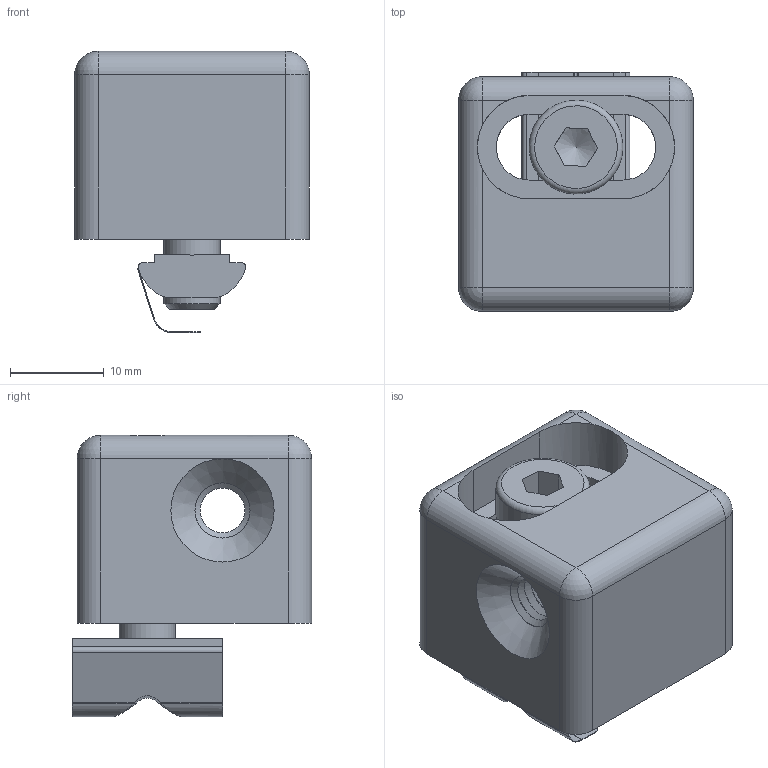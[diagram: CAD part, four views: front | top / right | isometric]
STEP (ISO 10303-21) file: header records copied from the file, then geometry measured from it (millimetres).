
FILE_DESCRIPTION(/* description */ (''),/* implementation_level */ '2;1');
FILE_NAME(/* name */ '21.2220 MULTIBLOCK 30 GD.stp',/* time_stamp */ '2025-01-31T13:43:50-05:00',/* author */ ('amoles'),/* organization */ (''),/* preprocessor_version */ 'ST-DEVELOPER v19.2',/* originating_system */ 'Autodesk Inventor 2024',/* authorisation */ '');
FILE_SCHEMA (('AUTOMOTIVE_DESIGN { 1 0 10303 214 3 1 1 }'));
Length unit declared in the file: inch
Products named in the file (4): 21.2220 MULTIBLOCK 30 GD; 2025_01_30_18_19_55_0165; 21.1265; 21.2342/2
Assembly tree (3 placements, depth 2):
  21.2220 MULTIBLOCK 30 GD
    2025_01_30_18_19_55_0165
    21.1265
    21.2342/2
Bounding box: 25 x 25.5 x 29.97 mm (x, y, z)
Volume: 10318.3 mm3; surface area: 5861.1 mm2
Topology: 4 solids, 4 shells, 127 faces, 310 edges, 185 vertices
Faces by surface type: plane 46, cone 44, cylinder 32, sphere 4, torus 1
Full cylindrical faces by diameter (mm): 4.917 x1, 6 x1, 10 x1
Entity records: 3911 total; most frequent: CARTESIAN_POINT 721, DIRECTION 674, ORIENTED_EDGE 610, EDGE_CURVE 305, AXIS2_PLACEMENT_3D 252, VERTEX_POINT 185, LINE 170, VECTOR 170
